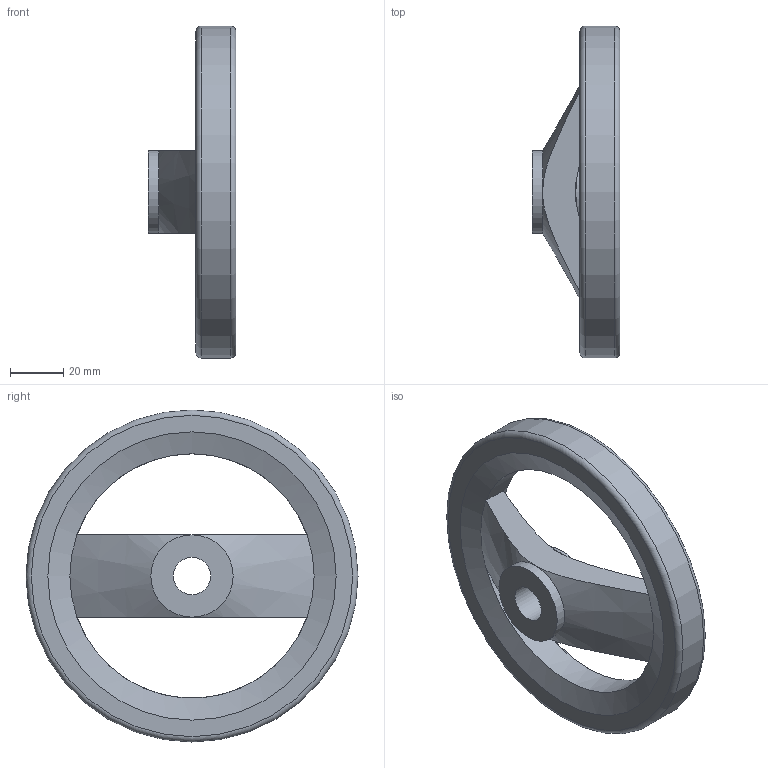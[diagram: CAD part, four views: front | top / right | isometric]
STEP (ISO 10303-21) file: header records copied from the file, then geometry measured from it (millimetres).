
FILE_DESCRIPTION( ( 'STEP AP203' ), '1' );
FILE_NAME( 'C:/Temp/Ganter_Step_05_03_2020/data/1_3/gn_324/gn_324_b/gn_324_b_a/Handwheel, matt black GN 324-125-B14-A.stp', '2020-03-05T10:32:53', ( 'License CC BY-ND 4.0' ), ( 'CADENAS' ), ' ', 'PARTsolutions', ' ' );
FILE_SCHEMA( ( 'CONFIG_CONTROL_DESIGN' ) );
Length unit declared in the file: millimetre
Products named in the file (1): _Handwheel, matt black GN 324-125-B14-A
Bounding box: 33 x 125 x 125 mm (x, y, z)
Volume: 112949.9 mm3; surface area: 28406 mm2
Topology: 1 solids, 1 shells, 19 faces, 43 edges, 24 vertices
Faces by surface type: plane 6, cone 6, cylinder 5, torus 2
Full cylindrical faces by diameter (mm): 14 x1, 31 x2, 92 x1, 125 x1
Entity records: 652 total; most frequent: CARTESIAN_POINT 216, DIRECTION 86, ORIENTED_EDGE 66, AXIS2_PLACEMENT_3D 41, EDGE_CURVE 33, EDGE_LOOP 32, FACE_OUTER_BOUND 26, VERTEX_POINT 23
